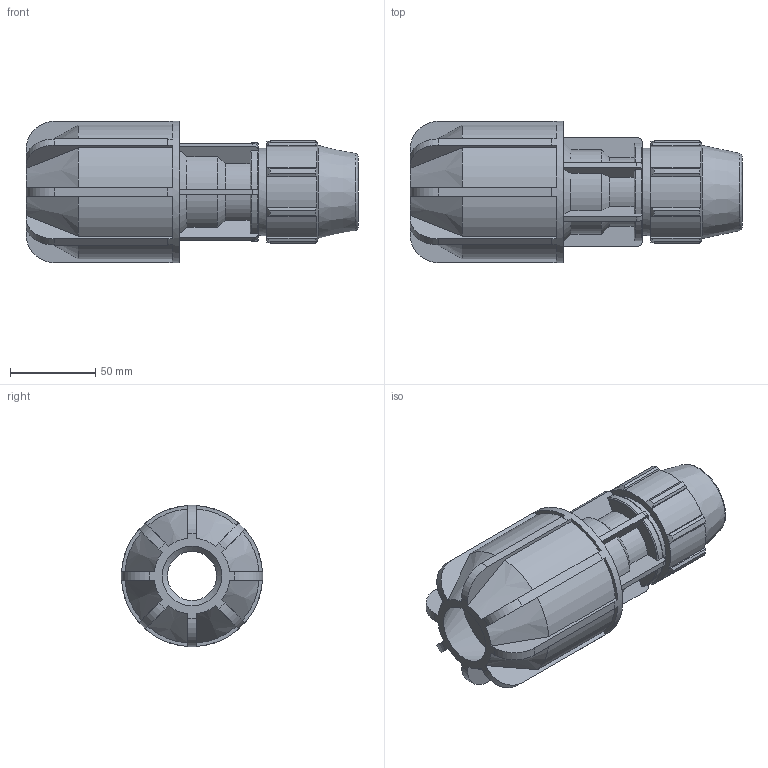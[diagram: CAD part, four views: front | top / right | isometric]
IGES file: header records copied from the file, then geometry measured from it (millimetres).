
Global section: file name: 070170032035_180170032035_0701760320350A.ipt; native system: Autodesk Inventor 2015; preprocessor: unknown; author: KIM; date: 20170606.172106; units: millimetre
Bounding box: 195 x 83 x 83 mm (x, y, z)
Volume: 407138.7 mm3; surface area: 85323.5 mm2
Topology: 1 solids, 1 shells, 220 faces, 635 edges, 422 vertices
Faces by surface type: plane 111, cylinder 58, cone 30, revolution 21
Full cylindrical faces by diameter (mm): 51.2 x1, 83 x1
